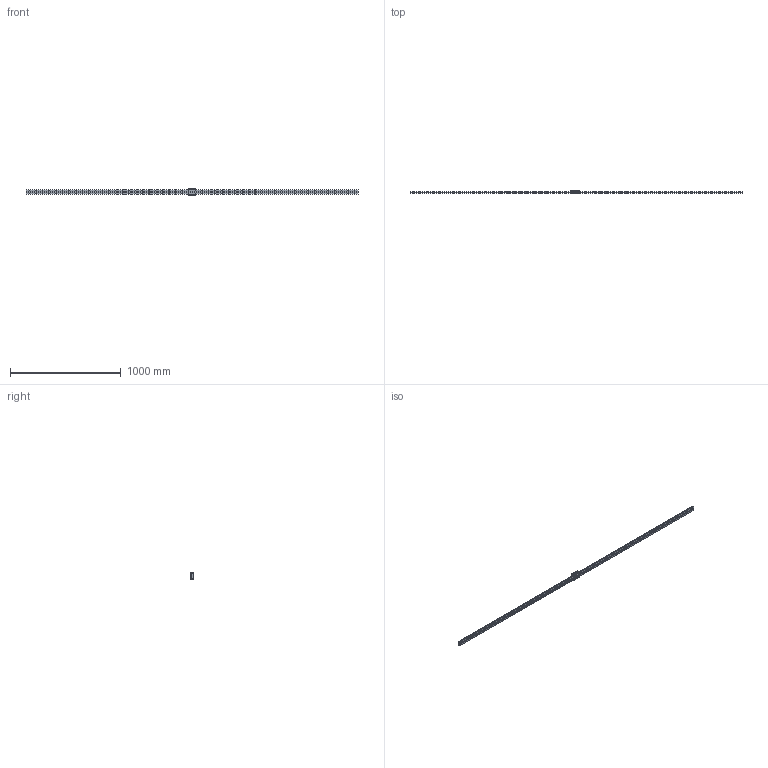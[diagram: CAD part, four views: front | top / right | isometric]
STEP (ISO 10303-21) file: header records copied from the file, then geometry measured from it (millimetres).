
FILE_DESCRIPTION(/* description */ ('STEP AP214'),/* implementation_level */ '2;1');
FILE_NAME(/* name */ 'HRW27CR1SS-3000L_G30_0_B-M6F_1463-6_0_0_0_1',/* time_stamp */ '2023-09-26T15:13:31+02:00',/* author */ ('License CC BY-ND 4.0'),/* organization */ ('CADENAS'),/* preprocessor_version */ 'ST-DEVELOPER v19.3',/* originating_system */ 'PARTsolutions',/* authorisation */ ' ');
FILE_SCHEMA (('AUTOMOTIVE_DESIGN {1 0 10303 214 3 1 1}'));
Length unit declared in the file: millimetre
Products named in the file (4): HRW27CR1SS-3000L_G30_0_B-M6F_1463-6_0_0_0_1; HRW-B-M6F_grease_nipple_joint; HRW27CRSSB-M6F1 Slide17-60; HRW27CR300030 Track
Assembly tree (3 placements, depth 2):
  HRW27CR1SS-3000L_G30_0_B-M6F_1463-6_0_0_0_1
    HRW-B-M6F_grease_nipple_joint
    HRW27CRSSB-M6F1 Slide17-60
    HRW27CR300030 Track
Bounding box: 3000 x 27 x 62 mm (x, y, z)
Volume: 1743117.9 mm3; surface area: 393703 mm2
Topology: 3 solids, 3 shells, 521 faces, 1186 edges, 779 vertices
Faces by surface type: plane 257, cylinder 228, cone 25, torus 8, sphere 3
Full cylindrical faces by diameter (mm): 3 x6, 4.5 x100, 4.917 x8, 6 x3, 7.5 x100, 8 x1
Entity records: 13987 total; most frequent: DIRECTION 2442, CARTESIAN_POINT 2324, ORIENTED_EDGE 1852, FACE_BOUND 1087, EDGE_LOOP 1081, AXIS2_PLACEMENT_3D 1015, EDGE_CURVE 926, VERTEX_POINT 773
